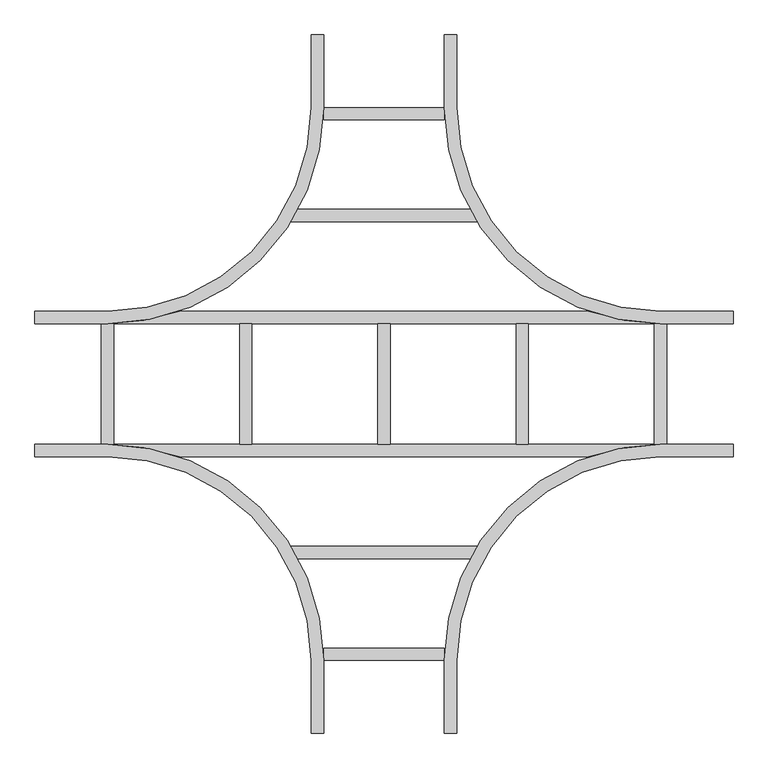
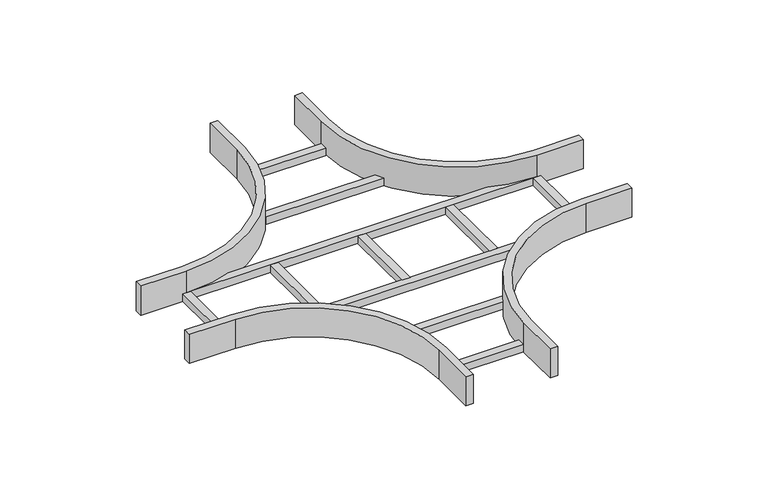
"""IFC4 building model written with IfcOpenShell, lengths in millimetres: cable carrier fitting geometry, BAKS_LD_CROSS_Horizontal cross over_CZDV : CZDVP_H100."""

from ifc_helpers import new_model, si_unit, frame, origin, place, context, project, spatial, polyline, circle_curve, outline, extrude, source, transform, mapped, element, save
from ifc_brep_helpers import plane_surface, cylinder_surface, revolved_surface, advanced_brep


def cable_carrier_fitting_39317766(model_context):
    return source(origin(), model_context, "Body", "SolidModel", [
        extrude(outline(polyline([(191.8889052, -334.6), (191.8889052, -360.0), (-191.8889052, -360.0), (-191.8889052, -334.6), (191.8889052, -334.6)])), frame((0.0, 0.0, -50.0), z_axis=(0.0, 0.0, 1.0), x_axis=(1.0, 0.0, 0.0)), (0.0, 0.0, 1.0), 25.4),
        extrude(outline(polyline([(191.8889052, 360.0), (191.8889052, 334.6), (-191.8889052, 334.6), (-191.8889052, 360.0), (191.8889052, 360.0)])), frame((0.0, 0.0, -50.0), z_axis=(0.0, 0.0, 1.0), x_axis=(1.0, 0.0, 0.0)), (0.0, 0.0, 1.0), 25.4),
        extrude(outline(polyline([(124.6, -544.6), (124.6, -570.0), (-124.6, -570.0), (-124.6, -544.6), (124.6, -544.6)])), frame((0.0, 0.0, -50.0), z_axis=(0.0, 0.0, 1.0), x_axis=(1.0, 0.0, 0.0)), (0.0, 0.0, 1.0), 25.4),
        extrude(outline(polyline([(124.6, 570.0), (124.6, 544.6), (-124.6, 544.6), (-124.6, 570.0), (124.6, 570.0)])), frame((0.0, 0.0, -50.0), z_axis=(0.0, 0.0, 1.0), x_axis=(1.0, 0.0, 0.0)), (0.0, 0.0, 1.0), 25.4),
        extrude(outline(polyline([(582.7, 124.6), (582.7, -124.6), (557.3, -124.6), (557.3, 124.6), (582.7, 124.6)])), frame((0.0, 0.0, -50.0), z_axis=(0.0, 0.0, 1.0), x_axis=(1.0, 0.0, 0.0)), (0.0, 0.0, 1.0), 25.4),
        extrude(outline(polyline([(297.7, 124.6), (297.7, -124.6), (272.3, -124.6), (272.3, 124.6), (297.7, 124.6)])), frame((0.0, 0.0, -50.0), z_axis=(0.0, 0.0, 1.0), x_axis=(1.0, 0.0, 0.0)), (0.0, 0.0, 1.0), 25.4),
        extrude(outline(polyline([(12.7, 124.6), (12.7, -124.6), (-12.7, -124.6), (-12.7, 124.6), (12.7, 124.6)])), frame((0.0, 0.0, -50.0), z_axis=(0.0, 0.0, 1.0), x_axis=(1.0, 0.0, 0.0)), (0.0, 0.0, 1.0), 25.4),
        extrude(outline(polyline([(-272.3, 124.6), (-272.3, -124.6), (-297.7, -124.6), (-297.7, 124.6), (-272.3, 124.6)])), frame((0.0, 0.0, -50.0), z_axis=(0.0, 0.0, 1.0), x_axis=(1.0, 0.0, 0.0)), (0.0, 0.0, 1.0), 25.4),
        extrude(outline(polyline([(-557.3, 124.6), (-557.3, -124.6), (-582.7, -124.6), (-582.7, 124.6), (-557.3, 124.6)])), frame((0.0, 0.0, -50.0), z_axis=(0.0, 0.0, 1.0), x_axis=(1.0, 0.0, 0.0)), (0.0, 0.0, 1.0), 25.4),
        advanced_brep(
        [(-150.0, -570.0, 50.0), (-150.0, -720.0, 50.0), (-124.6, -720.0, 50.0), (-124.6, -570.0, 50.0), (-570.0, -124.6, 50.0), (-720.0, -124.6, 50.0), (-720.0, -150.0, 50.0), (-570.0, -150.0, 50.0), (150.0, -570.0, 50.0), (570.0, -150.0, 50.0), (720.0, -150.0, 50.0), (720.0, -124.6, 50.0), (570.0, -124.6, 50.0), (124.6, -570.0, 50.0), (124.6, -720.0, 50.0), (150.0, -720.0, 50.0), (-150.0, -570.0, -50.0), (-570.0, -150.0, -50.0), (-720.0, -150.0, -50.0), (-720.0, -124.6, -50.0), (720.0, -124.6, -50.0), (720.0, -150.0, -50.0), (570.0, -150.0, -50.0), (150.0, -570.0, -50.0), (150.0, -720.0, -50.0), (124.6, -720.0, -50.0), (124.6, -570.0, -50.0), (421.7395535, -150.0, -50.0), (-421.7395535, -150.0, -50.0), (-124.6, -570.0, -50.0), (-124.6, -720.0, -50.0), (-150.0, -720.0, -50.0), (-421.7395535, -150.0, -24.6), (-570.0, -124.6, -24.6), (570.0, -124.6, -24.6), (-570.0, -150.0, -24.6), (570.0, -150.0, -24.6), (421.7395535, -150.0, -24.6)],
        [
            (0, 1),
            (1, 2),
            (2, 3),
            (3, 4, circle_curve(frame((-570.0, -570.0, 50.0), z_axis=(0.0, 0.0, 1.0), x_axis=(1.0, 0.0, 0.0)), 445.4)),
            (4, 5),
            (5, 6),
            (6, 7),
            (7, 0, circle_curve(frame((-570.0, -570.0, 50.0), z_axis=(0.0, 0.0, -1.0), x_axis=(1.0, 0.0, 0.0)), 420.0)),
            (8, 9, circle_curve(frame((570.0, -570.0, 50.0), z_axis=(0.0, 0.0, -1.0), x_axis=(1.0, 0.0, 0.0)), 420.0)),
            (9, 10),
            (10, 11),
            (11, 12),
            (12, 13, circle_curve(frame((570.0, -570.0, 50.0), z_axis=(0.0, 0.0, 1.0), x_axis=(1.0, 0.0, 0.0)), 445.4)),
            (13, 14),
            (14, 15),
            (15, 8),
            (16, 17, circle_curve(frame((-570.0, -570.0, -50.0), z_axis=(0.0, 0.0, 1.0), x_axis=(1.0, 0.0, 0.0)), 420.0)),
            (17, 18),
            (18, 19),
            (19, 20),
            (20, 21),
            (21, 22),
            (22, 23, circle_curve(frame((570.0, -570.0, -50.0), z_axis=(0.0, 0.0, 1.0), x_axis=(1.0, 0.0, 0.0)), 420.0)),
            (23, 24),
            (24, 25),
            (25, 26),
            (26, 27, circle_curve(frame((570.0, -570.0, -50.0), z_axis=(0.0, 0.0, -1.0), x_axis=(1.0, 0.0, 0.0)), 445.4)),
            (27, 28),
            (28, 29, circle_curve(frame((-570.0, -570.0, -50.0), z_axis=(0.0, 0.0, -1.0), x_axis=(1.0, 0.0, 0.0)), 445.4)),
            (29, 30),
            (30, 31),
            (31, 16),
            (0, 16),
            (31, 1),
            (30, 2),
            (29, 3),
            (28, 32),
            (32, 33, circle_curve(frame((-570.0, -570.0, -24.6), z_axis=(0.0, 0.0, 1.0), x_axis=(1.0, 0.0, 0.0)), 445.4)),
            (33, 4),
            (33, 34),
            (34, 12),
            (11, 20),
            (19, 5),
            (18, 6),
            (17, 35),
            (35, 7),
            (8, 23),
            (22, 36),
            (36, 9),
            (21, 10),
            (34, 37, circle_curve(frame((570.0, -570.0, -24.6), z_axis=(0.0, 0.0, 1.0), x_axis=(1.0, 0.0, 0.0)), 445.4)),
            (37, 27),
            (26, 13),
            (25, 14),
            (24, 15),
            (32, 37),
        ],
        [
            plane_surface(frame((-150.0, -570.0, 50.0), z_axis=(0.0, 0.0, 1.0), x_axis=(0.0, -1.0, 0.0))),
            plane_surface(frame((-150.0, -570.0, -50.0), z_axis=(0.0, 0.0, -1.0), x_axis=(0.0, 1.0, 0.0))),
            plane_surface(frame((-150.0, -570.0, 50.0), z_axis=(-1.0, 0.0, 0.0), x_axis=(0.0, 0.0, -1.0))),
            plane_surface(frame((-150.0, -720.0, 50.0), z_axis=(0.0, -1.0, 0.0), x_axis=(0.0, 0.0, -1.0))),
            plane_surface(frame((-124.6, -720.0, 50.0), z_axis=(1.0, 0.0, 0.0), x_axis=(0.0, 0.0, -1.0))),
            cylinder_surface(frame((-570.0, -570.0, -50.0), z_axis=(0.0, 0.0, 1.0), x_axis=(1.0, 0.0, 0.0)), 445.4),
            plane_surface(frame((-570.0, -124.6, 50.0), z_axis=(0.0, 1.0, 0.0), x_axis=(0.0, 0.0, -1.0))),
            plane_surface(frame((-720.0, -124.6, 50.0), z_axis=(-1.0, 0.0, 0.0), x_axis=(0.0, 0.0, -1.0))),
            plane_surface(frame((-720.0, -150.0, 50.0), z_axis=(0.0, -1.0, 0.0), x_axis=(0.0, 0.0, -1.0))),
            revolved_surface(polyline([(-150.0, -570.0, -50.0), (-150.0, -570.0, 50.0)]), (-570.0, -570.0, -50.0), (0.0, 0.0, -1.0)),
            revolved_surface(polyline([(990.0, -570.0, -50.0), (990.0, -570.0, 50.0)]), (570.0, -570.0, 0.0), (0.0, 0.0, -1.0)),
            plane_surface(frame((570.0, -150.0, 50.0), z_axis=(0.0, -1.0, 0.0), x_axis=(0.0, 0.0, -1.0))),
            plane_surface(frame((720.0, -150.0, 50.0), z_axis=(1.0, 0.0, 0.0), x_axis=(0.0, 0.0, -1.0))),
            cylinder_surface(frame((570.0, -570.0, 0.0), z_axis=(0.0, 0.0, 1.0), x_axis=(1.0, 0.0, 0.0)), 445.4),
            plane_surface(frame((124.6, -570.0, 50.0), z_axis=(-1.0, 0.0, 0.0), x_axis=(0.0, 0.0, -1.0))),
            plane_surface(frame((124.6, -720.0, 50.0), z_axis=(0.0, -1.0, 0.0), x_axis=(0.0, 0.0, -1.0))),
            plane_surface(frame((150.0, -720.0, 50.0), z_axis=(1.0, 0.0, 0.0), x_axis=(0.0, 0.0, -1.0))),
            plane_surface(frame((-570.0, -124.6, -24.6), z_axis=(0.0, 0.0, 1.0), x_axis=(-1.0, 0.0, 0.0))),
            plane_surface(frame((-570.0, -150.0, -24.6), z_axis=(0.0, -1.0, 0.0), x_axis=(0.0, 0.0, -1.0))),
        ],
        [
            (0, [[1, 2, 3, 4, 5, 6, 7, 8]]),
            (0, [[9, 10, 11, 12, 13, 14, 15, 16]]),
            (1, [[17, 18, 19, 20, 21, 22, 23, 24, 25, 26, 27, 28, 29, 30, 31, 32]]),
            (2, [[-1, 33, -32, 34]]),
            (3, [[-2, -34, -31, 35]]),
            (4, [[-3, -35, -30, 36]]),
            (5, [[-4, -36, -29, 37, 38, 39]]),
            (6, [[-5, -39, 40, 41, -12, 42, -20, 43]]),
            (7, [[-6, -43, -19, 44]]),
            (8, [[-7, -44, -18, 45, 46]]),
            (9, [[-8, -46, -45, -17, -33]]),
            (10, [[-9, 47, -23, 48, 49]]),
            (11, [[-10, -49, -48, -22, 50]]),
            (12, [[-11, -50, -21, -42]]),
            (13, [[-13, -41, 51, 52, -27, 53]]),
            (14, [[-14, -53, -26, 54]]),
            (15, [[-15, -54, -25, 55]]),
            (16, [[-16, -55, -24, -47]]),
            (17, [[-40, -38, 56, -51]]),
            (18, [[-28, -52, -56, -37]]),
        ],
    ),
        advanced_brep(
        [(-124.6, 570.0, 50.0), (-124.6, 720.0, 50.0), (-150.0, 720.0, 50.0), (-150.0, 570.0, 50.0), (-570.0, 150.0, 50.0), (-720.0, 150.0, 50.0), (-720.0, 124.6, 50.0), (-570.0, 124.6, 50.0), (124.6, 570.0, 50.0), (570.0, 124.6, 50.0), (720.0, 124.6, 50.0), (720.0, 150.0, 50.0), (570.0, 150.0, 50.0), (150.0, 570.0, 50.0), (150.0, 720.0, 50.0), (124.6, 720.0, 50.0), (-720.0, 124.6, -50.0), (-720.0, 150.0, -50.0), (-570.0, 150.0, -50.0), (-150.0, 570.0, -50.0), (-150.0, 720.0, -50.0), (-124.6, 720.0, -50.0), (-124.6, 570.0, -50.0), (-421.7395535, 150.0, -50.0), (421.7395535, 150.0, -50.0), (124.6, 570.0, -50.0), (124.6, 720.0, -50.0), (150.0, 720.0, -50.0), (150.0, 570.0, -50.0), (570.0, 150.0, -50.0), (720.0, 150.0, -50.0), (720.0, 124.6, -50.0), (-570.0, 124.6, -24.6), (570.0, 124.6, -24.6), (421.7395535, 150.0, -24.6), (-421.7395535, 150.0, -24.6), (-570.0, 150.0, -24.6), (570.0, 150.0, -24.6)],
        [
            (0, 1),
            (1, 2),
            (2, 3),
            (3, 4, circle_curve(frame((-570.0, 570.0, 50.0), z_axis=(0.0, 0.0, -1.0), x_axis=(1.0, 0.0, 0.0)), 420.0)),
            (4, 5),
            (5, 6),
            (6, 7),
            (7, 0, circle_curve(frame((-570.0, 570.0, 50.0), z_axis=(0.0, 0.0, 1.0), x_axis=(1.0, 0.0, 0.0)), 445.4)),
            (8, 9, circle_curve(frame((570.0, 570.0, 50.0), z_axis=(0.0, 0.0, 1.0), x_axis=(1.0, 0.0, 0.0)), 445.4)),
            (9, 10),
            (10, 11),
            (11, 12),
            (12, 13, circle_curve(frame((570.0, 570.0, 50.0), z_axis=(0.0, 0.0, -1.0), x_axis=(1.0, 0.0, 0.0)), 420.0)),
            (13, 14),
            (14, 15),
            (15, 8),
            (16, 17),
            (17, 18),
            (18, 19, circle_curve(frame((-570.0, 570.0, -50.0), z_axis=(0.0, 0.0, 1.0), x_axis=(1.0, 0.0, 0.0)), 420.0)),
            (19, 20),
            (20, 21),
            (21, 22),
            (22, 23, circle_curve(frame((-570.0, 570.0, -50.0), z_axis=(0.0, 0.0, -1.0), x_axis=(1.0, 0.0, 0.0)), 445.4)),
            (23, 24),
            (24, 25, circle_curve(frame((570.0, 570.0, -50.0), z_axis=(0.0, 0.0, -1.0), x_axis=(1.0, 0.0, 0.0)), 445.4)),
            (25, 26),
            (26, 27),
            (27, 28),
            (28, 29, circle_curve(frame((570.0, 570.0, -50.0), z_axis=(0.0, 0.0, 1.0), x_axis=(1.0, 0.0, 0.0)), 420.0)),
            (29, 30),
            (30, 31),
            (31, 16),
            (32, 33),
            (33, 34, circle_curve(frame((570.0, 570.0, -24.6), z_axis=(0.0, 0.0, -1.0), x_axis=(1.0, 0.0, 0.0)), 445.4)),
            (34, 35),
            (35, 32, circle_curve(frame((-570.0, 570.0, -24.6), z_axis=(0.0, 0.0, -1.0), x_axis=(1.0, 0.0, 0.0)), 445.4)),
            (0, 22),
            (21, 1),
            (20, 2),
            (19, 3),
            (18, 36),
            (36, 4),
            (17, 5),
            (16, 6),
            (31, 10),
            (9, 33),
            (32, 7),
            (35, 23),
            (8, 25),
            (24, 34),
            (30, 11),
            (29, 37),
            (37, 12),
            (28, 13),
            (27, 14),
            (26, 15),
        ],
        [
            plane_surface(frame((-150.0, -570.0, 50.0), z_axis=(0.0, 0.0, 1.0), x_axis=(0.0, -1.0, 0.0))),
            plane_surface(frame((-150.0, -570.0, -50.0), z_axis=(0.0, 0.0, -1.0), x_axis=(0.0, 1.0, 0.0))),
            plane_surface(frame((-570.0, -124.6, -24.6), z_axis=(0.0, 0.0, 1.0), x_axis=(-1.0, 0.0, 0.0))),
            plane_surface(frame((-124.6, 570.0, 50.0), z_axis=(1.0, 0.0, 0.0), x_axis=(0.0, 0.0, -1.0))),
            plane_surface(frame((-124.6, 720.0, 50.0), z_axis=(0.0, 1.0, 0.0), x_axis=(0.0, 0.0, -1.0))),
            plane_surface(frame((-150.0, 720.0, 50.0), z_axis=(-1.0, 0.0, 0.0), x_axis=(0.0, 0.0, -1.0))),
            revolved_surface(polyline([(-150.0, 570.0, -50.0), (-150.0, 570.0, 50.0)]), (-570.0, 570.0, 0.0), (0.0, 0.0, -1.0)),
            plane_surface(frame((-570.0, 150.0, 50.0), z_axis=(0.0, 1.0, 0.0), x_axis=(0.0, 0.0, -1.0))),
            plane_surface(frame((-720.0, 150.0, 50.0), z_axis=(-1.0, 0.0, 0.0), x_axis=(0.0, 0.0, -1.0))),
            plane_surface(frame((-720.0, 124.6, 50.0), z_axis=(0.0, -1.0, 0.0), x_axis=(0.0, 0.0, -1.0))),
            cylinder_surface(frame((-570.0, 570.0, 0.0), z_axis=(0.0, 0.0, 1.0), x_axis=(1.0, 0.0, 0.0)), 445.4),
            cylinder_surface(frame((570.0, 570.0, 0.0), z_axis=(0.0, 0.0, 1.0), x_axis=(1.0, 0.0, 0.0)), 445.4),
            plane_surface(frame((720.0, 124.6, 50.0), z_axis=(1.0, 0.0, 0.0), x_axis=(0.0, 0.0, -1.0))),
            plane_surface(frame((720.0, 150.0, 50.0), z_axis=(0.0, 1.0, 0.0), x_axis=(0.0, 0.0, -1.0))),
            revolved_surface(polyline([(990.0, 570.0, -50.0), (990.0, 570.0, 50.0)]), (570.0, 570.0, 0.0), (0.0, 0.0, -1.0)),
            plane_surface(frame((150.0, 570.0, 50.0), z_axis=(1.0, 0.0, 0.0), x_axis=(0.0, 0.0, -1.0))),
            plane_surface(frame((150.0, 720.0, 50.0), z_axis=(0.0, 1.0, 0.0), x_axis=(0.0, 0.0, -1.0))),
            plane_surface(frame((124.6, 720.0, 50.0), z_axis=(-1.0, 0.0, 0.0), x_axis=(0.0, 0.0, -1.0))),
            plane_surface(frame((570.0, 150.0, -24.6), z_axis=(0.0, 1.0, 0.0), x_axis=(0.0, 0.0, -1.0))),
        ],
        [
            (0, [[1, 2, 3, 4, 5, 6, 7, 8]]),
            (0, [[9, 10, 11, 12, 13, 14, 15, 16]]),
            (1, [[17, 18, 19, 20, 21, 22, 23, 24, 25, 26, 27, 28, 29, 30, 31, 32]]),
            (2, [[33, 34, 35, 36]]),
            (3, [[-1, 37, -22, 38]]),
            (4, [[-2, -38, -21, 39]]),
            (5, [[-3, -39, -20, 40]]),
            (6, [[-4, -40, -19, 41, 42]]),
            (7, [[-5, -42, -41, -18, 43]]),
            (8, [[-6, -43, -17, 44]]),
            (9, [[-7, -44, -32, 45, -10, 46, -33, 47]]),
            (10, [[-8, -47, -36, 48, -23, -37]]),
            (11, [[-9, 49, -25, 50, -34, -46]]),
            (12, [[-11, -45, -31, 51]]),
            (13, [[-12, -51, -30, 52, 53]]),
            (14, [[-13, -53, -52, -29, 54]]),
            (15, [[-14, -54, -28, 55]]),
            (16, [[-15, -55, -27, 56]]),
            (17, [[-16, -56, -26, -49]]),
            (18, [[-24, -48, -35, -50]]),
        ],
    ),
    ])


if __name__ == "__main__":
    model = new_model("IFC4")
    model_context = context("Model", 3, world=origin())
    ifc_project = project(units=[si_unit("LENGTHUNIT", "METRE", prefix="MILLI")], contexts=[model_context])
    site = spatial("IfcSite", under=ifc_project)
    building = spatial("IfcBuilding", under=site)
    placement = place(None, origin())
    cable_carrier_fitting_shape = cable_carrier_fitting_39317766(model_context)
    element("IfcCableCarrierFitting", 1, ObjectType="BAKS_LD_CROSS_Horizontal cross over_CZDV : CZDVP_H100", at=placement, inside=building, context=model_context, shape_type="MappedRepresentation", body=[
        mapped(cable_carrier_fitting_shape, transform((0.0, 0.0, 0.0), x_axis=(1.0, 0.0, 0.0), y_axis=(0.0, 1.0, 0.0), z_axis=(0.0, 0.0, 1.0))),
    ])
    save(model, "model.ifc")
